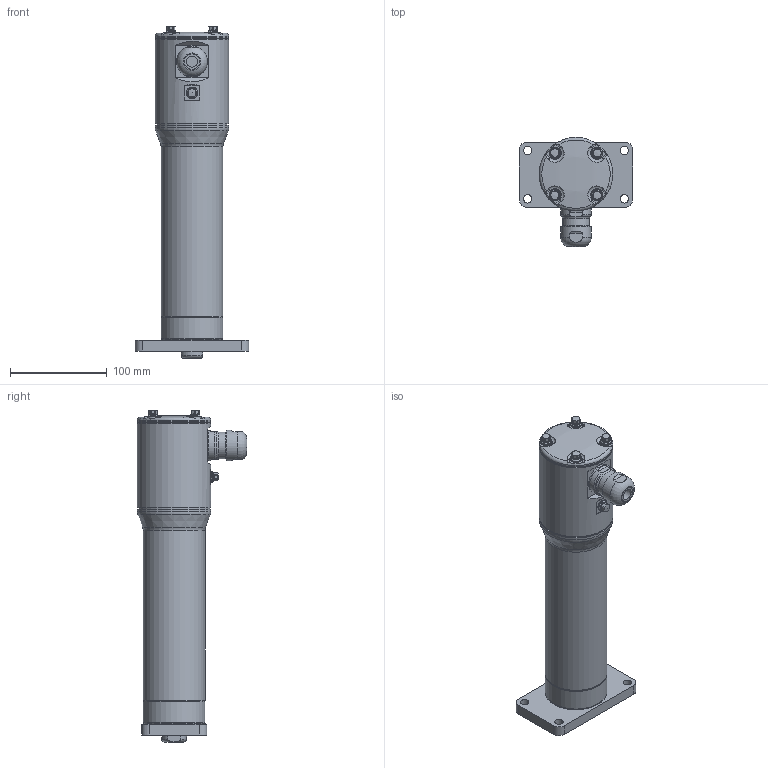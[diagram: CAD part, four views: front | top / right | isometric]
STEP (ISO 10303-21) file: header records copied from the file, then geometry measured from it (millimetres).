
FILE_DESCRIPTION (( 'STEP AP203' ), '1' );
FILE_NAME ('IMAST22_BN05_SM100.000_IMAS-475517-1.step', '2024-11-20T09:47:07', ( '' ), ( '' ), 'SwSTEP 2.0', 'SolidWorks 2024', '' );
FILE_SCHEMA (( 'CONFIG_CONTROL_DESIGN' ));
Length unit declared in the file: inch
Products named in the file (4): IMAST22_BN05_SM100.000_IMAS-475517-1; tempJoin0_26229074_IMAST22_BN05_SM100.000_IMAS-475517-1; tempJoin0_26229006_IMAST22_BN05_SM100.000_IMAS-475517-1; Base_IMAST22_BN05_SM100.000_IMAS-475517-1
Assembly tree (3 placements, depth 2):
  IMAST22_BN05_SM100.000_IMAS-475517-1
    tempJoin0_26229074_IMAST22_BN05_SM100.000_IMAS-475517-1
    tempJoin0_26229006_IMAST22_BN05_SM100.000_IMAS-475517-1
    Base_IMAST22_BN05_SM100.000_IMAS-475517-1
Bounding box: 117.35 x 113.15 x 343.41 mm (x, y, z)
Volume: 1246587.5 mm3; surface area: 146967.6 mm2
Topology: 3 solids, 20 shells, 461 faces, 1051 edges, 692 vertices
Faces by surface type: plane 185, cylinder 170, cone 65, torus 31, bspline 5, sphere 5
Full cylindrical faces by diameter (mm): 3.36 x1, 5 x8, 6 x12, 6.7 x8, 8.738 x4, 10 x8, 10.7 x5, 10.779 x1, 10.795 x4, 11.1 x4, 11.5 x1, 15.8 x1, 17.6 x1, 20.2 x1, 25.385 x1, 25.4 x1, 25.654 x1, 27.7 x1, 30 x2, 31.686 x2, 31.76 x1, 31.8 x2, 31.953 x1, 34.773 x1, 35.475 x1, 35.538 x1, 60.63 x1, 63.927 x2, 64 x2, 73.33 x2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
Entity records: 13521 total; most frequent: CARTESIAN_POINT 3724, DIRECTION 1940, ORIENTED_EDGE 1680, EDGE_CURVE 840, AXIS2_PLACEMENT_3D 836, EDGE_LOOP 704, VERTEX_POINT 626, FACE_OUTER_BOUND 574
